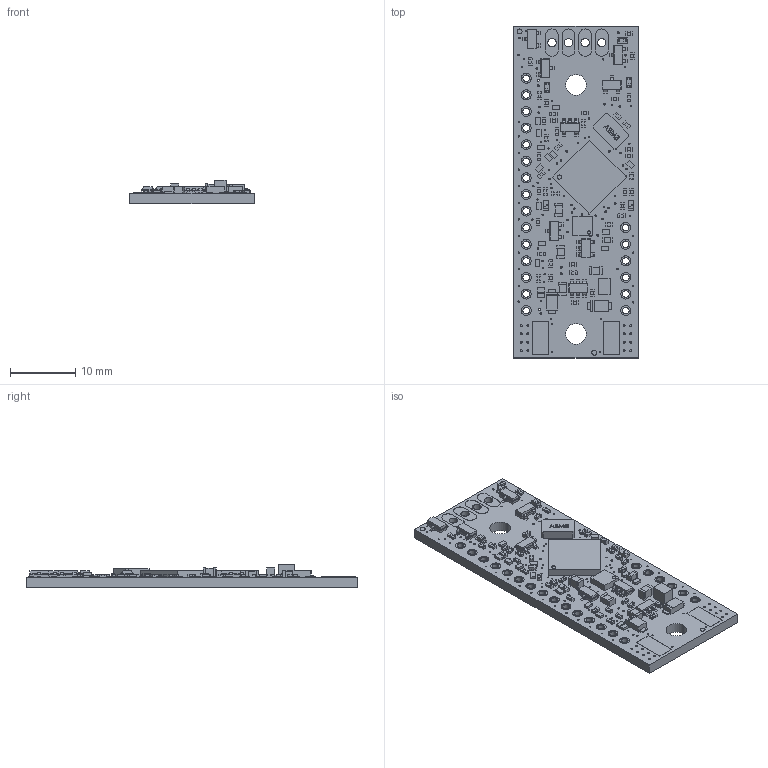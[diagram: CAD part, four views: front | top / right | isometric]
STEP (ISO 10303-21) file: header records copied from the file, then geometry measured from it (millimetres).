
FILE_DESCRIPTION (( 'STEP AP214' ), '1' );
FILE_NAME ('CANifier_1.0.STEP', '2017-09-08T20:51:53', ( 'ART' ), ( 'Microsoft' ), 'SwSTEP 2.0', 'SolidWorks 2015', '' );
FILE_SCHEMA (( 'AUTOMOTIVE_DESIGN' ));
Length unit declared in the file: inch
Products named in the file (1): CANifier_1.0
Bounding box: 19.05 x 50.8 x 3.65 mm (x, y, z)
Volume: 1658.1 mm3; surface area: 3498.2 mm2
Topology: 145 solids, 145 shells, 2454 faces, 6272 edges, 4160 vertices
Faces by surface type: plane 1746, cylinder 685, bspline 23
Entity records: 109442 total; most frequent: CARTESIAN_POINT 14230, ORIENTED_EDGE 12544, DIRECTION 12460, EDGE_CURVE 6272, LINE 4856, VECTOR 4856, VERTEX_POINT 4160, AXIS2_PLACEMENT_3D 3802
